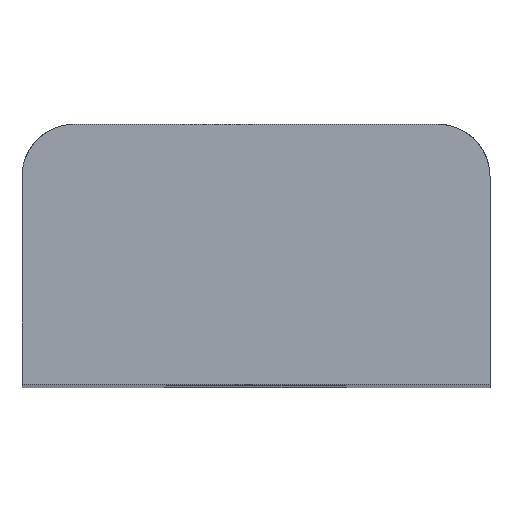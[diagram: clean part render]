
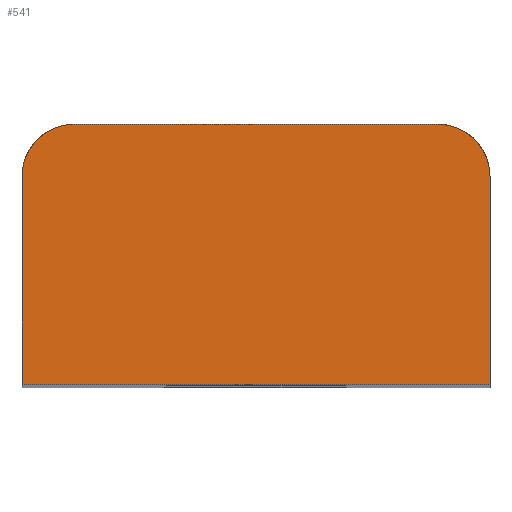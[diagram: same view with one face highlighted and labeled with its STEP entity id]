
A CAD part, top view. The second image highlights one B-rep face of the part: STEP entity #541.
In plain terms, the highlighted face is a extrusion surface.
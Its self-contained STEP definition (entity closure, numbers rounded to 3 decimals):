
#480=CARTESIAN_POINT('Control Point',(-9.,-5.,37.5)) ;
#481=CARTESIAN_POINT('Control Point',(9.066,-5.,37.5)) ;
#486=CARTESIAN_POINT('Control Point',(-7.,5.,37.5)) ;
#487=CARTESIAN_POINT('Control Point',(-7.628,5.,37.5)) ;
#488=CARTESIAN_POINT('Control Point',(-8.257,4.754,37.5)) ;
#489=CARTESIAN_POINT('Control Point',(-8.754,4.257,37.5)) ;
#490=CARTESIAN_POINT('Control Point',(-9.,3.628,37.5)) ;
#491=CARTESIAN_POINT('Control Point',(-9.,3.,37.5)) ;
#492=CARTESIAN_POINT('Vertex',(-7.,5.,37.5)) ;
#494=CARTESIAN_POINT('Vertex',(-9.,3.,37.5)) ;
#497=CARTESIAN_POINT('Line Origine',(-9.,0.,37.5)) ;
#501=CARTESIAN_POINT('Vertex',(-9.,-5.,37.5)) ;
#504=CARTESIAN_POINT('Line Origine',(0.,-5.,37.5)) ;
#508=CARTESIAN_POINT('Vertex',(9.,-5.,37.5)) ;
#511=CARTESIAN_POINT('Line Origine',(9.,0.,37.5)) ;
#515=CARTESIAN_POINT('Vertex',(9.,3.,37.5)) ;
#519=CARTESIAN_POINT('Control Point',(9.,3.,37.5)) ;
#520=CARTESIAN_POINT('Control Point',(9.,3.628,37.5)) ;
#521=CARTESIAN_POINT('Control Point',(8.754,4.257,37.5)) ;
#522=CARTESIAN_POINT('Control Point',(8.257,4.754,37.5)) ;
#523=CARTESIAN_POINT('Control Point',(7.628,5.,37.5)) ;
#524=CARTESIAN_POINT('Control Point',(7.,5.,37.5)) ;
#525=CARTESIAN_POINT('Vertex',(7.,5.,37.5)) ;
#528=CARTESIAN_POINT('Line Origine',(0.,5.,37.5)) ;
#482=DIRECTION('Vector Direction',(0.,1.,0.)) ;
#498=DIRECTION('Vector Direction',(0.,1.,0.)) ;
#505=DIRECTION('Vector Direction',(1.,0.,0.)) ;
#512=DIRECTION('Vector Direction',(0.,1.,0.)) ;
#529=DIRECTION('Vector Direction',(1.,0.,0.)) ;
#534=ORIENTED_EDGE('',*,*,#496,.T.) ;
#535=ORIENTED_EDGE('',*,*,#503,.T.) ;
#536=ORIENTED_EDGE('',*,*,#510,.T.) ;
#537=ORIENTED_EDGE('',*,*,#517,.T.) ;
#538=ORIENTED_EDGE('',*,*,#527,.T.) ;
#539=ORIENTED_EDGE('',*,*,#532,.T.) ;
#483=VECTOR('Extrusion Surface Vector',#482,1.) ;
#499=VECTOR('Line Direction',#498,1.) ;
#506=VECTOR('Line Direction',#505,1.) ;
#513=VECTOR('Line Direction',#512,1.) ;
#530=VECTOR('Line Direction',#529,1.) ;
#541=ADVANCED_FACE('Superficie.7',(#540),#484,.T.) ;
#479=B_SPLINE_CURVE_WITH_KNOTS('',1,(#480,#481),.UNSPECIFIED.,.F.,.U.,(2,2),(-9.,9.066),.UNSPECIFIED.) ;
#485=B_SPLINE_CURVE_WITH_KNOTS('',5,(#486,#487,#488,#489,#490,#491),.UNSPECIFIED.,.F.,.U.,(6,6),(0.,4.443),.UNSPECIFIED.) ;
#518=B_SPLINE_CURVE_WITH_KNOTS('',5,(#519,#520,#521,#522,#523,#524),.UNSPECIFIED.,.F.,.U.,(6,6),(0.,4.443),.UNSPECIFIED.) ;
#496=EDGE_CURVE('',#493,#495,#485,.T.) ;
#503=EDGE_CURVE('',#495,#502,#500,.F.) ;
#510=EDGE_CURVE('',#502,#509,#507,.T.) ;
#517=EDGE_CURVE('',#509,#516,#514,.T.) ;
#527=EDGE_CURVE('',#516,#526,#518,.T.) ;
#532=EDGE_CURVE('',#526,#493,#531,.F.) ;
#533=EDGE_LOOP('',(#534,#535,#536,#537,#538,#539)) ;
#540=FACE_OUTER_BOUND('',#533,.T.) ;
#500=LINE('Line',#497,#499) ;
#507=LINE('Line',#504,#506) ;
#514=LINE('Line',#511,#513) ;
#531=LINE('Line',#528,#530) ;
#484=SURFACE_OF_LINEAR_EXTRUSION('generated tabulated cylinder',#479,#483) ;
#493=VERTEX_POINT('',#492) ;
#495=VERTEX_POINT('',#494) ;
#502=VERTEX_POINT('',#501) ;
#509=VERTEX_POINT('',#508) ;
#516=VERTEX_POINT('',#515) ;
#526=VERTEX_POINT('',#525) ;
